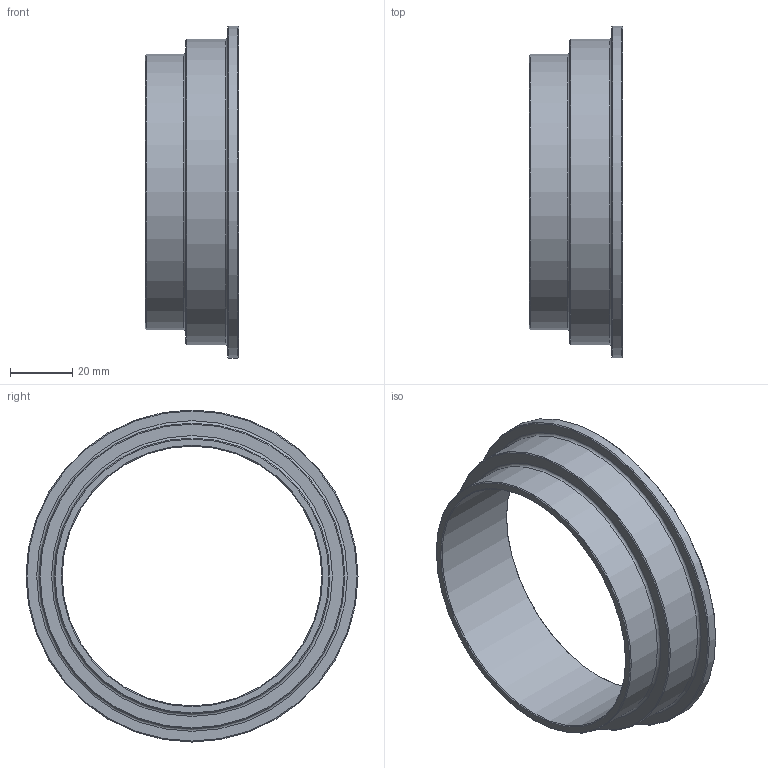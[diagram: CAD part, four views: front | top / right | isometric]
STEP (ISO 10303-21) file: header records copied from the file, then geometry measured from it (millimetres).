
FILE_DESCRIPTION(/* description */ (''),/* implementation_level */ '2;1');
FILE_NAME(/* name */ 'C:\Users\cad\Desktop\Zeichnungen neu von Ralph\3D_Kupplung_R666-SE\3D_R666-SE-88.9-DN100_17113381.stp',/* time_stamp */ '2021-06-18T09:26:14+02:00',/* author */ ('cad'),/* organization */ (''),/* preprocessor_version */ 'ST-DEVELOPER v18.1',/* originating_system */ 'Autodesk Inventor 2022',/* authorisation */ '');
FILE_SCHEMA (('AUTOMOTIVE_DESIGN { 1 0 10303 214 3 1 1 }'));
Length unit declared in the file: millimetre
Products named in the file (1): 3D_R666-SE-88.9-DN100_17113381
Bounding box: 30 x 107 x 107 mm (x, y, z)
Volume: 49970.1 mm3; surface area: 23337 mm2
Topology: 1 solids, 1 shells, 16 faces, 36 edges, 24 vertices
Faces by surface type: cone 6, cylinder 4, plane 4, torus 2
Full cylindrical faces by diameter (mm): 83.7 x1, 88.9 x1, 98.5 x1, 107 x1
Entity records: 511 total; most frequent: DIRECTION 96, CARTESIAN_POINT 77, ORIENTED_EDGE 72, AXIS2_PLACEMENT_3D 43, EDGE_CURVE 36, CIRCLE 26, VERTEX_POINT 24, EDGE_LOOP 20
